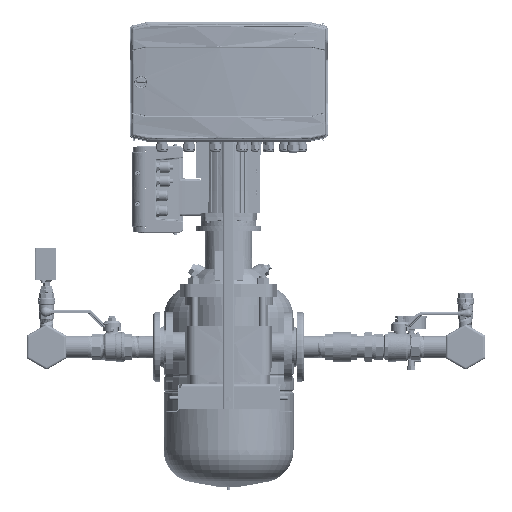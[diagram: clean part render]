
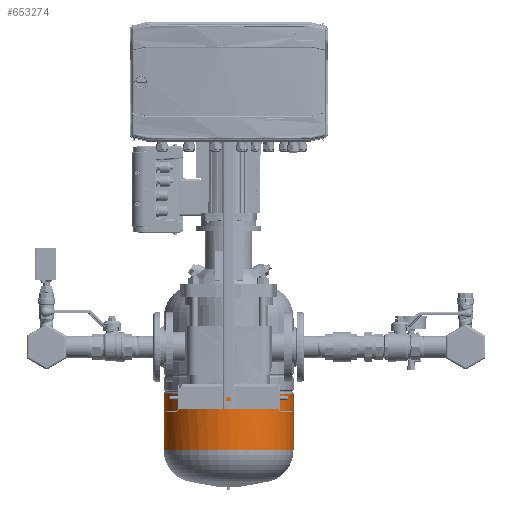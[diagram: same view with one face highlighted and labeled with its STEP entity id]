
A CAD part, left-side view. The second image highlights one B-rep face of the part: STEP entity #653274.
In plain terms, the highlighted cylindrical face has radius 140 mm (diameter 280 mm), a partial arc.
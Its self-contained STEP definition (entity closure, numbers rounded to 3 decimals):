
#646383=CARTESIAN_POINT('Vertex',(-140.,0.,-20.533)) ;
#646386=CARTESIAN_POINT('Axis2P3D Location',(0.,0.,-20.533)) ;
#646390=CARTESIAN_POINT('Vertex',(0.,-140.,-20.533)) ;
#646445=CARTESIAN_POINT('Vertex',(0.,140.,-20.533)) ;
#646448=CARTESIAN_POINT('Axis2P3D Location',(0.,0.,-20.533)) ;
#653189=CARTESIAN_POINT('Axis2P3D Location',(0.,0.,-85.867)) ;
#653194=CARTESIAN_POINT('Line Origine',(0.,140.,-85.867)) ;
#653198=CARTESIAN_POINT('Vertex',(0.,140.,-142.492)) ;
#653201=CARTESIAN_POINT('Line Origine',(0.,-140.,-85.867)) ;
#653205=CARTESIAN_POINT('Vertex',(0.,-140.,-142.492)) ;
#653243=CARTESIAN_POINT('Control Point',(-140.,0.,-142.492)) ;
#653244=CARTESIAN_POINT('Control Point',(-140.,21.991,-142.492)) ;
#653245=CARTESIAN_POINT('Control Point',(-135.682,43.982,-142.492)) ;
#653246=CARTESIAN_POINT('Control Point',(-127.042,64.842,-142.492)) ;
#653247=CARTESIAN_POINT('Control Point',(-102.048,102.048,-142.492)) ;
#653248=CARTESIAN_POINT('Control Point',(-64.842,127.042,-142.492)) ;
#653249=CARTESIAN_POINT('Control Point',(-43.982,135.682,-142.492)) ;
#653250=CARTESIAN_POINT('Control Point',(-21.991,140.,-142.492)) ;
#653251=CARTESIAN_POINT('Control Point',(0.,140.,-142.492)) ;
#653252=CARTESIAN_POINT('Vertex',(-140.,0.,-142.492)) ;
#653256=CARTESIAN_POINT('Control Point',(0.,-140.,-142.492)) ;
#653257=CARTESIAN_POINT('Control Point',(-21.991,-140.,-142.492)) ;
#653258=CARTESIAN_POINT('Control Point',(-43.982,-135.682,-142.492)) ;
#653259=CARTESIAN_POINT('Control Point',(-64.842,-127.042,-142.492)) ;
#653260=CARTESIAN_POINT('Control Point',(-102.048,-102.048,-142.492)) ;
#653261=CARTESIAN_POINT('Control Point',(-127.042,-64.842,-142.492)) ;
#653262=CARTESIAN_POINT('Control Point',(-135.682,-43.982,-142.492)) ;
#653263=CARTESIAN_POINT('Control Point',(-140.,-21.991,-142.492)) ;
#653264=CARTESIAN_POINT('Control Point',(-140.,0.,-142.492)) ;
#653196=VECTOR('Line Direction',#653195,1.) ;
#653203=VECTOR('Line Direction',#653202,1.) ;
#646387=DIRECTION('Axis2P3D Direction',(0.,0.,-1.)) ;
#646449=DIRECTION('Axis2P3D Direction',(0.,0.,-1.)) ;
#653190=DIRECTION('Axis2P3D Direction',(0.,0.,-1.)) ;
#653191=DIRECTION('Axis2P3D XDirection',(0.,-1.,0.)) ;
#653195=DIRECTION('Vector Direction',(0.,0.,-1.)) ;
#653202=DIRECTION('Vector Direction',(0.,0.,-1.)) ;
#646388=AXIS2_PLACEMENT_3D('Circle Axis2P3D',#646386,#646387,$) ;
#646450=AXIS2_PLACEMENT_3D('Circle Axis2P3D',#646448,#646449,$) ;
#653192=AXIS2_PLACEMENT_3D('Cylinder Axis2P3D',#653189,#653190,#653191) ;
#653197=LINE('Line',#653194,#653196) ;
#653204=LINE('Line',#653201,#653203) ;
#646389=CIRCLE('generated circle',#646388,140.) ;
#646451=CIRCLE('generated circle',#646450,140.) ;
#653193=CYLINDRICAL_SURFACE('generated cylinder',#653192,140.) ;
#646392=EDGE_CURVE('',#646384,#646391,#646389,.F.) ;
#646452=EDGE_CURVE('',#646446,#646384,#646451,.F.) ;
#653200=EDGE_CURVE('',#646446,#653199,#653197,.T.) ;
#653207=EDGE_CURVE('',#653206,#646391,#653204,.F.) ;
#653254=EDGE_CURVE('',#653253,#653199,#653242,.T.) ;
#653265=EDGE_CURVE('',#653206,#653253,#653255,.T.) ;
#653267=ORIENTED_EDGE('',*,*,#653207,.T.) ;
#653268=ORIENTED_EDGE('',*,*,#646392,.F.) ;
#653269=ORIENTED_EDGE('',*,*,#646452,.F.) ;
#653270=ORIENTED_EDGE('',*,*,#653200,.T.) ;
#653271=ORIENTED_EDGE('',*,*,#653254,.F.) ;
#653272=ORIENTED_EDGE('',*,*,#653265,.F.) ;
#653266=EDGE_LOOP('',(#653267,#653268,#653269,#653270,#653271,#653272)) ;
#646384=VERTEX_POINT('',#646383) ;
#646391=VERTEX_POINT('',#646390) ;
#646446=VERTEX_POINT('',#646445) ;
#653199=VERTEX_POINT('',#653198) ;
#653206=VERTEX_POINT('',#653205) ;
#653253=VERTEX_POINT('',#653252) ;
#653274=ADVANCED_FACE('MANIFOLD_SOLID_BREP #40',(#653273),#653193,.T.) ;
#653242=B_SPLINE_CURVE_WITH_KNOTS('',5,(#653243,#653244,#653245,#653246,#653247,#653248,#653249,#653250,#653251),.UNSPECIFIED.,.F.,.U.,(6,3,6),(0.,109.956,219.911),.UNSPECIFIED.) ;
#653255=B_SPLINE_CURVE_WITH_KNOTS('',5,(#653256,#653257,#653258,#653259,#653260,#653261,#653262,#653263,#653264),.UNSPECIFIED.,.F.,.U.,(6,3,6),(-219.911,-109.956,0.),.UNSPECIFIED.) ;
#653273=FACE_OUTER_BOUND('',#653266,.T.) ;
